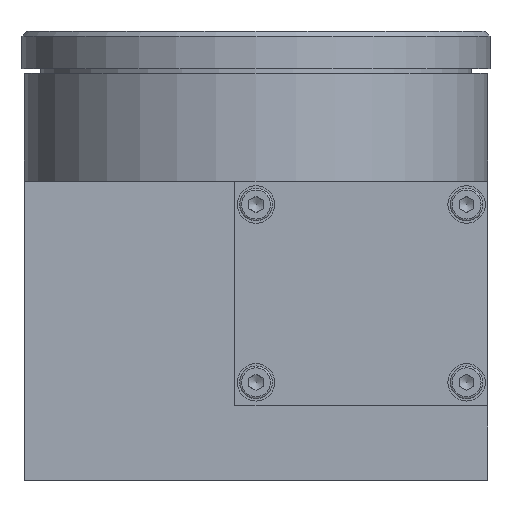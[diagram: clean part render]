
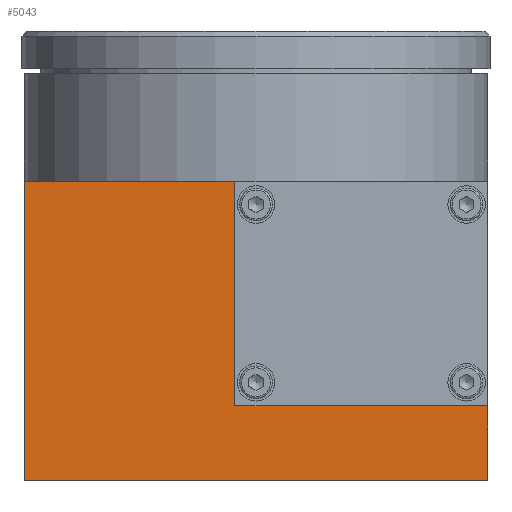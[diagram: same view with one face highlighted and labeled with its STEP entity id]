
A CAD part, front view. The second image highlights one B-rep face of the part: STEP entity #5043.
In plain terms, the highlighted planar face has unit normal (0, -1, 0).
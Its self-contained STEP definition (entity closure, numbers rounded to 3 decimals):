
#3103=CARTESIAN_POINT('',(-49.5,-49.5,49.0));
#3104=VERTEX_POINT('',#3103);
#3120=CARTESIAN_POINT('',(-49.5,-49.5,-15.));
#3121=VERTEX_POINT('',#3120);
#3128=CARTESIAN_POINT('',(-49.5,-49.5,49.));
#3129=DIRECTION('',(0.0,0.0,-1.0));
#3130=VECTOR('',#3129,64.0);
#3131=LINE('',#3128,#3130);
#3132=EDGE_CURVE('',#3104,#3121,#3131,.T.);
#3205=CARTESIAN_POINT('',(49.5,-49.5,1.));
#3206=VERTEX_POINT('',#3205);
#3213=CARTESIAN_POINT('',(49.5,-49.5,-15.));
#3214=VERTEX_POINT('',#3213);
#3215=CARTESIAN_POINT('',(49.5,-49.5,1.));
#3216=DIRECTION('',(0.0,0.0,-1.0));
#3217=VECTOR('',#3216,16.);
#3218=LINE('',#3215,#3217);
#3219=EDGE_CURVE('',#3206,#3214,#3218,.T.);
#3312=CARTESIAN_POINT('',(-4.5,-49.5,49.0));
#3313=VERTEX_POINT('',#3312);
#3314=CARTESIAN_POINT('',(-4.5,-49.5,49.0));
#3315=DIRECTION('',(-1.0,0.0,0.0));
#3316=VECTOR('',#3315,45.);
#3317=LINE('',#3314,#3316);
#3318=EDGE_CURVE('',#3313,#3104,#3317,.T.);
#5013=CARTESIAN_POINT('',(49.5,-49.5,0.0));
#5014=DIRECTION('',(0.0,-1.0,0.0));
#5015=DIRECTION('',(0.0,0.0,-1.0));
#5016=AXIS2_PLACEMENT_3D('',#5013,#5014,#5015);
#5017=PLANE('',#5016);
#5018=CARTESIAN_POINT('',(-4.5,-49.5,1.));
#5019=VERTEX_POINT('',#5018);
#5020=CARTESIAN_POINT('',(-4.5,-49.5,1.));
#5021=DIRECTION('',(0.0,0.0,1.0));
#5022=VECTOR('',#5021,48.0);
#5023=LINE('',#5020,#5022);
#5024=EDGE_CURVE('',#5019,#3313,#5023,.T.);
#5025=ORIENTED_EDGE('',*,*,#5024,.T.);
#5026=ORIENTED_EDGE('',*,*,#3318,.T.);
#5027=ORIENTED_EDGE('',*,*,#3132,.T.);
#5028=CARTESIAN_POINT('',(-49.5,-49.5,-15.));
#5029=DIRECTION('',(1.0,0.0,0.0));
#5030=VECTOR('',#5029,99.);
#5031=LINE('',#5028,#5030);
#5032=EDGE_CURVE('',#3121,#3214,#5031,.T.);
#5033=ORIENTED_EDGE('',*,*,#5032,.T.);
#5034=ORIENTED_EDGE('',*,*,#3219,.F.);
#5035=CARTESIAN_POINT('',(49.5,-49.5,1.));
#5036=DIRECTION('',(-1.0,0.0,0.0));
#5037=VECTOR('',#5036,54.);
#5038=LINE('',#5035,#5037);
#5039=EDGE_CURVE('',#3206,#5019,#5038,.T.);
#5040=ORIENTED_EDGE('',*,*,#5039,.T.);
#5041=EDGE_LOOP('',(#5025,#5026,#5027,#5033,#5034,#5040));
#5042=FACE_OUTER_BOUND('',#5041,.T.);
#5043=ADVANCED_FACE('',(#5042),#5017,.T.);
